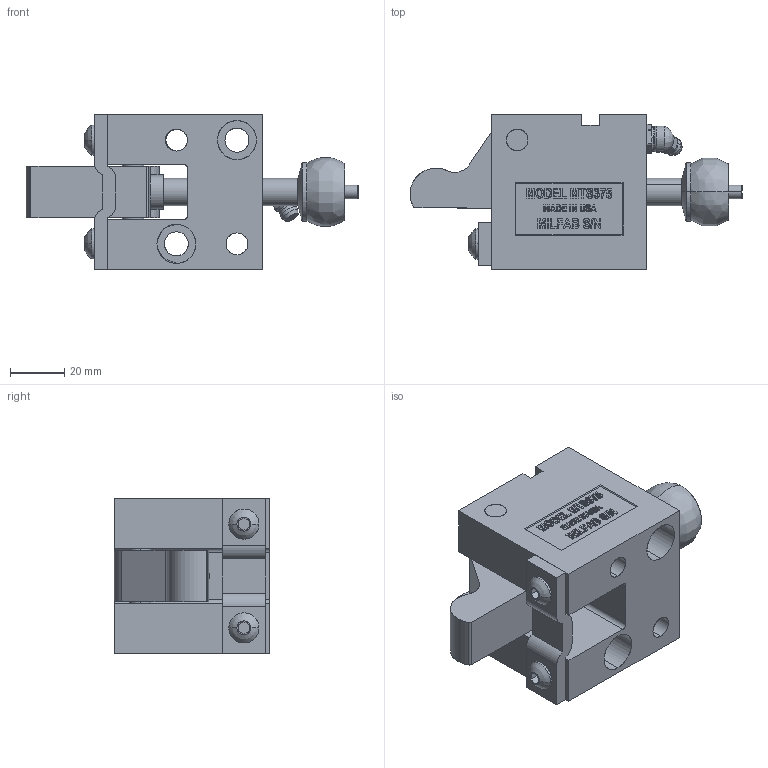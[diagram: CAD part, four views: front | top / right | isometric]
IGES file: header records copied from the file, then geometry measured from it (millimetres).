
Start section: SolidWorks IGES file using analytic representation for surfaces
Global section: file name: Y:\METRIC With OFFSETRIGGER\TOPMOUNT\MTS37545\CLOSED\MTS37545-C.IGS; native system: SolidWorks 2006 by SolidWorks Corporation; preprocessor: SolidWorks 2006 by SolidWorks Corporation; author: Jim; date: 090121.180115; units: inch
Bounding box: 121.9 x 57.15 x 57.15 mm (x, y, z)
Surface area: 47437.9 mm2 (no closed solid volume)
Topology: 0 solids, 0 shells, 594 faces, 7011 edges, 7007 vertices
Faces by surface type: bspline 470, revolution 124
